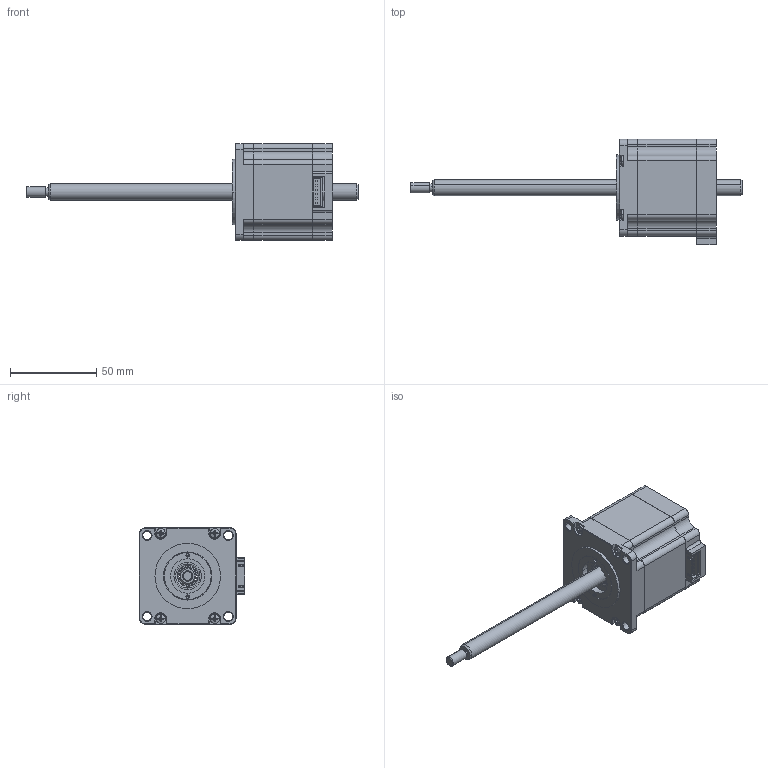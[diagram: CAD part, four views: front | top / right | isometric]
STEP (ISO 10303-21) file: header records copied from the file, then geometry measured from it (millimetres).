
FILE_DESCRIPTION (( 'STEP AP203' ), '1' );
FILE_NAME ('LN238S-E09050-180-S-220.STEP', '2019-04-13T02:43:43', ( 'Sky123.Org' ), ( 'Sky123.Org' ), 'SwSTEP 2.0', 'SolidWorks 2014', '' );
FILE_SCHEMA (( 'CONFIG_CONTROL_DESIGN' ));
Length unit declared in the file: millimetre
Products named in the file (1): LN238S-E09050-180-S-220
Bounding box: 193 x 61.2 x 56.2 mm (x, y, z)
Surface area: 32686.9 mm2 (no closed solid volume)
Topology: 0 solids, 17 shells, 390 faces, 1123 edges, 747 vertices
Faces by surface type: plane 196, cylinder 96, cone 86, sphere 8, torus 4
Entity records: 13231 total; most frequent: CARTESIAN_POINT 2892, DIRECTION 2178, ORIENTED_EDGE 2010, EDGE_CURVE 1123, AXIS2_PLACEMENT_3D 767, VERTEX_POINT 747, VECTOR 644, LINE 644
